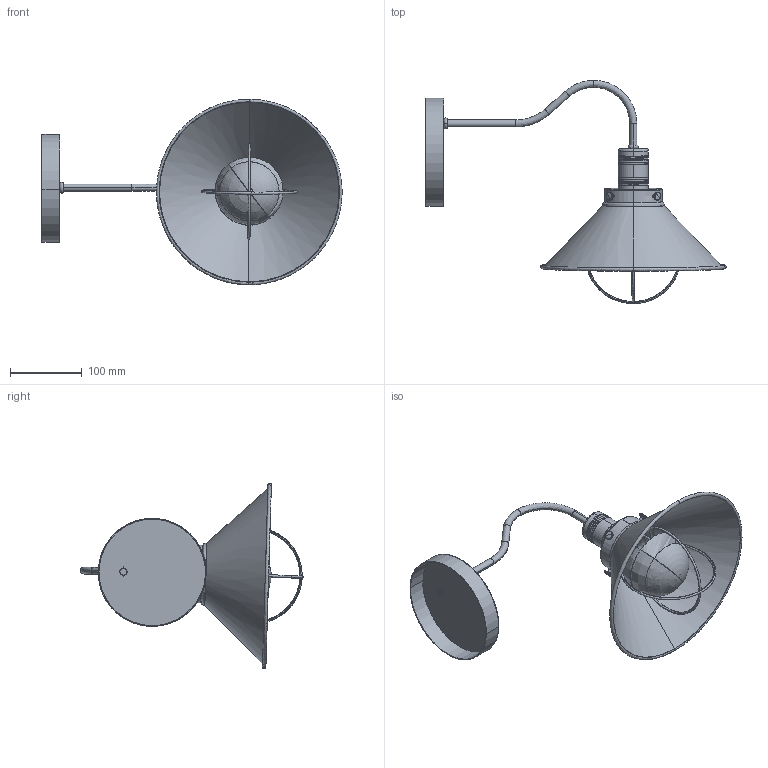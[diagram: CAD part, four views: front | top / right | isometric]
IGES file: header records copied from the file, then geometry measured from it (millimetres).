
Start section: SolidWorks IGES file using analytic representation for surfaces
Global section: file name: E:\3D lampy\Garret\Garret kinkiet\Garret_kinkiet.IGS; native system: SolidWorks 2016; preprocessor: SolidWorks 2016; author: Asia; date: 160927.083052; units: millimetre
Bounding box: 416.9 x 310.12 x 257.68 mm (x, y, z)
Surface area: 322024.2 mm2 (no closed solid volume)
Topology: 0 solids, 0 shells, 819 faces, 9068 edges, 9063 vertices
Faces by surface type: bspline 623, revolution 196
